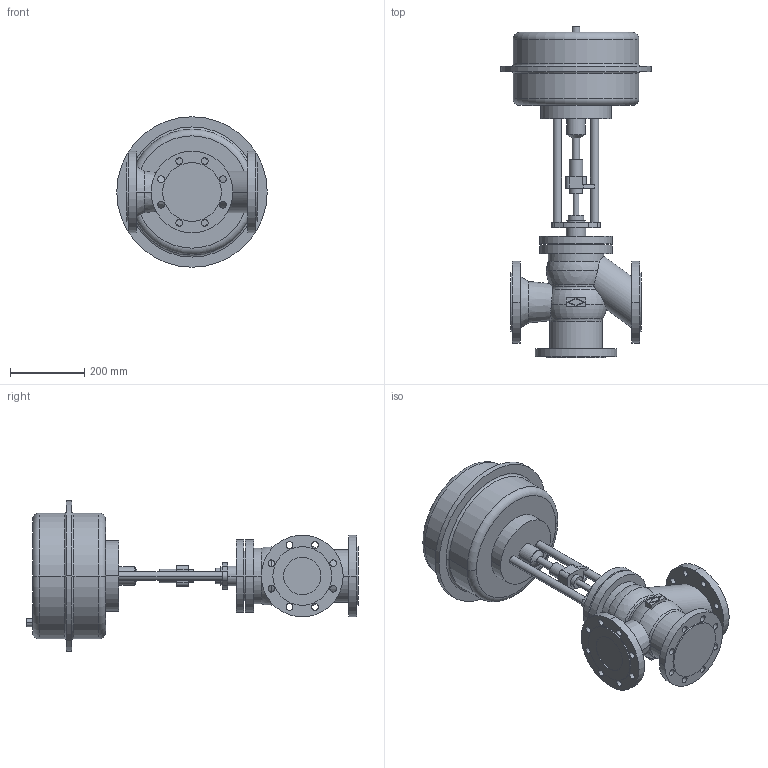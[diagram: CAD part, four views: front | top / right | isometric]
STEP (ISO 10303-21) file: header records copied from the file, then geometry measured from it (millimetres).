
FILE_DESCRIPTION(('OneSpaceDesigner STEP Export'),'2;1');
FILE_NAME('c000000692.stp','2006-09-19T10:18:08',(''),(''),'OneSpace Designer STEP processor for AP214 (Solid Model)','OneSpace Designer 13.20A 18-Aug-2005 (C) CoCreate Software GmbH','');
FILE_SCHEMA(('AUTOMOTIVE_DESIGN { 1 0 10303 214 1 1 1 1 }'));
Length unit declared in the file: millimetre
Products named in the file (2): 1; 2
Bounding box: 405 x 893.5 x 405 mm (x, y, z)
Volume: 29866770.3 mm3; surface area: 1087139.9 mm2
Topology: 2 solids, 2 shells, 212 faces, 526 edges, 342 vertices
Faces by surface type: cylinder 114, plane 68, torus 20, cone 6, sphere 4
Entity records: 5694 total; most frequent: CARTESIAN_POINT 1111, ORIENTED_EDGE 1044, DIRECTION 806, EDGE_CURVE 522, VERTEX_POINT 342, AXIS2_PLACEMENT_3D 299, EDGE_LOOP 288, FACE_OUTER_BOUND 212
